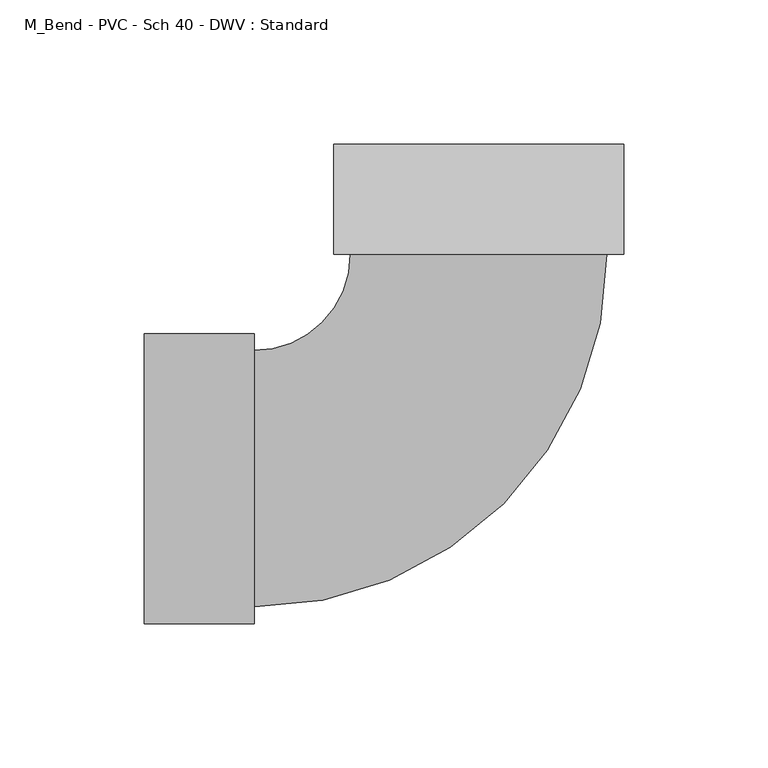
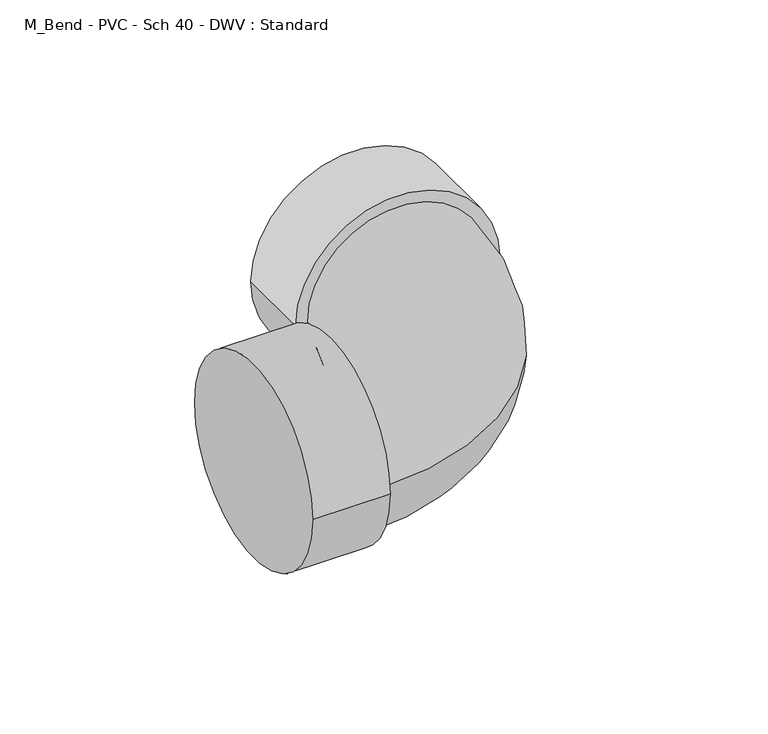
"""IFC4 building model written with IfcOpenShell, lengths in millimetres: pipe fitting geometry, M_Bend - PVC - Sch 40 - DWV : Standard."""

from ifc_helpers import new_model, si_unit, point, frame, origin, place, context, project, spatial, circle_curve, ellipse_curve, trimmed, source, transform, mapped, element, save
from ifc_brep_helpers import plane_surface, cylinder_surface, revolved_surface, advanced_brep


def m_bend_pvc_sch_40_dwv_standard_383642ff(model_context):
    return source(origin(), model_context, "Body", "AdvancedBrep", [
        advanced_brep(
        [(-115.9002, -50.2666, 0.0), (-115.9002, 50.2666, 0.0), (-77.8002, -50.2666, 0.0), (-77.8002, 50.2666, 0.0), (-77.8002, -44.45, 0.0), (-77.8002, 44.45, 0.0), (-44.4500791, 77.8001548, 0.0), (44.4499209, 77.8002452, 0.0), (50.2665209, 77.8002511, 0.0), (-50.2666791, 77.8001489, 0.0), (50.2664821, 115.9002511, 0.0), (-50.2667179, 115.9001489, 0.0)],
        [
            (0, 1, circle_curve(frame((-115.9002, 0.0, 0.0), z_axis=(-1.0, 0.0, 0.0), x_axis=(0.0, 1.0, 0.0)), 50.2666)),
            (1, 0, circle_curve(frame((-115.9002, 0.0, 0.0), z_axis=(-1.0, 0.0, 0.0), x_axis=(0.0, 1.0, 0.0)), 50.2666)),
            (2, 3, circle_curve(frame((-77.8002, 0.0, 0.0), z_axis=(1.0, 0.0, 0.0), x_axis=(0.0, 1.0, 0.0)), 50.2666)),
            (3, 2, circle_curve(frame((-77.8002, 0.0, 0.0), z_axis=(1.0, 0.0, 0.0), x_axis=(0.0, 1.0, 0.0)), 50.2666)),
            (4, 5, circle_curve(frame((-77.8002, 0.0, 0.0), z_axis=(-1.0, 0.0, 0.0), x_axis=(0.0, 1.0, 0.0)), 44.45)),
            (5, 4, circle_curve(frame((-77.8002, 0.0, 0.0), z_axis=(-1.0, 0.0, 0.0), x_axis=(0.0, 1.0, 0.0)), 44.45)),
            (0, 2),
            (3, 1),
            (6, 5, circle_curve(frame((-77.8002, 77.8001209, 0.0), z_axis=(0.0, 0.0, -1.0), x_axis=(0.0, -1.0, 0.0)), 33.3501209)),
            (4, 7, circle_curve(frame((-77.8002, 77.8001209, 0.0), z_axis=(0.0, 0.0, 1.0), x_axis=(0.0, -1.0, 0.0)), 122.2501209)),
            (7, 6, circle_curve(frame((-7.91e-05, 77.8002, 0.0), z_axis=(1.0171860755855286e-06, -0.9999999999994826, 0.0), x_axis=(-0.9999999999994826, -1.0171860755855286e-06, 0.0)), 44.45)),
            (6, 7, circle_curve(frame((-7.91e-05, 77.8002, 0.0), z_axis=(1.0171860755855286e-06, -0.9999999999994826, 0.0), x_axis=(-0.9999999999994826, -1.0171860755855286e-06, 0.0)), 44.45)),
            (8, 9, circle_curve(frame((-7.91e-05, 77.8002, 0.0), z_axis=(1.0171860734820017e-06, -0.9999999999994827, 0.0), x_axis=(-0.9999999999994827, -1.0171860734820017e-06, 0.0)), 50.2666)),
            (9, 8, circle_curve(frame((-7.91e-05, 77.8002, 0.0), z_axis=(1.0171860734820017e-06, -0.9999999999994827, 0.0), x_axis=(-0.9999999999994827, -1.0171860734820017e-06, 0.0)), 50.2666)),
            (10, 11, circle_curve(frame((-0.0001179, 115.9002, 0.0), z_axis=(-1.0171860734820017e-06, 0.9999999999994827, 0.0), x_axis=(-0.9999999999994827, -1.0171860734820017e-06, 0.0)), 50.2666)),
            (11, 10, circle_curve(frame((-0.0001179, 115.9002, 0.0), z_axis=(-1.0171860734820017e-06, 0.9999999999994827, 0.0), x_axis=(-0.9999999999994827, -1.0171860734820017e-06, 0.0)), 50.2666)),
            (8, 10),
            (11, 9),
        ],
        [
            plane_surface(frame((-115.9002, 0.0, 0.0), z_axis=(-1.0, 0.0, 0.0), x_axis=(0.0, 0.0, 1.0))),
            plane_surface(frame((-77.8002, 0.0, 0.0), z_axis=(1.0, 0.0, 0.0), x_axis=(0.0, 0.0, 1.0))),
            cylinder_surface(frame((-115.9002, 0.0, 0.0), z_axis=(-1.0, 0.0, 0.0), x_axis=(0.0, 1.0, 0.0)), 50.2666),
            revolved_surface(trimmed(ellipse_curve(frame((-77.8002, 0.0, 0.0), z_axis=(-1.0, 0.0, 0.0), x_axis=(0.0, 1.0, 0.0)), 44.45, 44.45), [point((-77.8002, -44.45, 0.0))], [point((-77.8002, 44.45, 0.0))], True, "CARTESIAN"), (-77.8002, 77.8001209, 0.0), (0.0, 0.0, 1.0)),
            revolved_surface(trimmed(ellipse_curve(frame((-77.8002, 0.0, 0.0), z_axis=(-1.0, 0.0, 0.0), x_axis=(0.0, 1.0, 0.0)), 44.45, 44.45), [point((-77.8002, 44.45, 0.0))], [point((-77.8002, -44.45, 0.0))], True, "CARTESIAN"), (-77.8002, 77.8001209, 0.0), (0.0, 0.0, 1.0)),
            plane_surface(frame((-7.91e-05, 77.8002, 0.0), z_axis=(1.0171860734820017e-06, -0.9999999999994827, 0.0), x_axis=(0.0, 0.0, 1.0))),
            plane_surface(frame((-0.0001179, 115.9002, 0.0), z_axis=(-1.0171860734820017e-06, 0.9999999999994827, 0.0), x_axis=(0.0, 0.0, 1.0))),
            cylinder_surface(frame((-7.91e-05, 77.8002, 0.0), z_axis=(1.0171860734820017e-06, -0.9999999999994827, 0.0), x_axis=(-0.9999999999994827, -1.0171860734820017e-06, 0.0)), 50.2666),
        ],
        [
            (0, [[1, 2]]),
            (1, [[3, 4], [5, 6]]),
            (2, [[-1, 7, -4, 8]]),
            (2, [[-2, -8, -3, -7]]),
            (3, [[9, -5, 10, 11]]),
            (4, [[-9, 12, -10, -6]]),
            (5, [[13, 14], [-11, -12]]),
            (6, [[15, 16]]),
            (7, [[-13, 17, -16, 18]]),
            (7, [[-14, -18, -15, -17]]),
        ],
    ),
    ])


if __name__ == "__main__":
    model = new_model("IFC4")
    model_context = context("Model", 3, world=origin())
    ifc_project = project(units=[si_unit("LENGTHUNIT", "METRE", prefix="MILLI")], contexts=[model_context])
    site = spatial("IfcSite", under=ifc_project)
    building = spatial("IfcBuilding", under=site)
    placement = place(None, origin())
    m_bend_pvc_sch_40_dwv_standard_shape = m_bend_pvc_sch_40_dwv_standard_383642ff(model_context)
    element("IfcPipeFitting", 1, ObjectType="M_Bend - PVC - Sch 40 - DWV : Standard", at=placement, inside=building, context=model_context, shape_type="MappedRepresentation", body=[
        mapped(m_bend_pvc_sch_40_dwv_standard_shape, transform((0.0, 0.0, 0.0), x_axis=(1.0, 0.0, 0.0), y_axis=(0.0, 1.0, 0.0), z_axis=(0.0, 0.0, 1.0))),
    ])
    save(model, "model.ifc")
